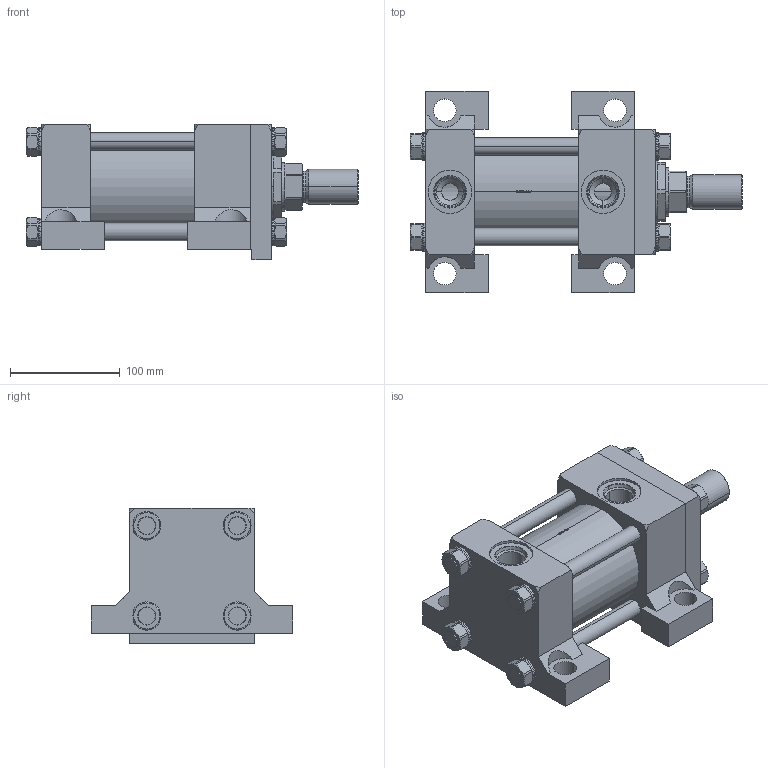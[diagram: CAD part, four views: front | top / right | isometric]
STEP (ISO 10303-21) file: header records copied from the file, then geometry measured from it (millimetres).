
FILE_DESCRIPTION (( 'STEP AP214' ), '1' );
FILE_NAME ('3.25CP2HHNAT134A2.000.step', '2026-03-26T21:16:11', ( '' ), ( '' ), 'SwSTEP 2.0', 'SolidWorks 2023', '' );
FILE_SCHEMA (( 'AUTOMOTIVE_DESIGN' ));
Length unit declared in the file: inch
Products named in the file (1): 3.25CP2HHNAT134A2.000
Bounding box: 303.21 x 184.15 x 123.83 mm (x, y, z)
Volume: 2284892.4 mm3; surface area: 409711.8 mm2
Topology: 47 solids, 47 shells, 1261 faces, 3253 edges, 2094 vertices
Faces by surface type: plane 813, cylinder 227, cone 161, bspline 52, torus 8
Entity records: 57189 total; most frequent: CARTESIAN_POINT 11559, ORIENTED_EDGE 6506, DIRECTION 5277, EDGE_CURVE 3253, VERTEX_POINT 2094, AXIS2_PLACEMENT_3D 1782, LINE 1713, VECTOR 1713
